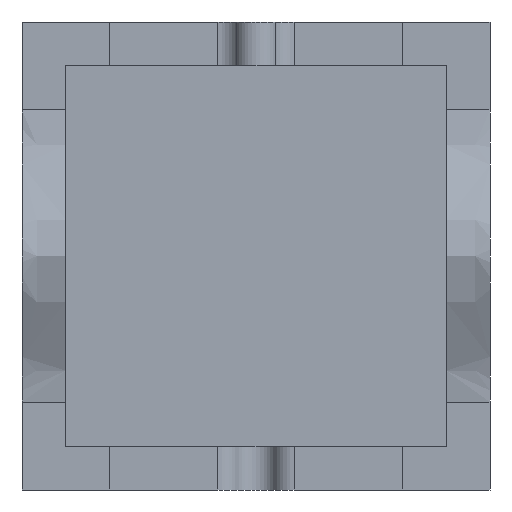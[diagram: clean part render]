
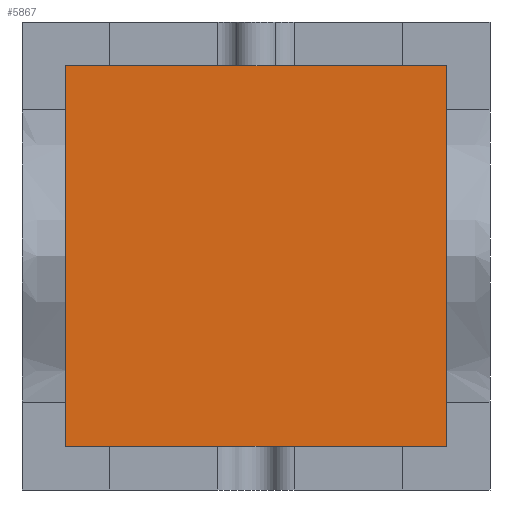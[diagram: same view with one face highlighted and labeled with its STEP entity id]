
A CAD part, front view. The second image highlights one B-rep face of the part: STEP entity #5867.
In plain terms, the highlighted planar face has unit normal (0, -1, 0).
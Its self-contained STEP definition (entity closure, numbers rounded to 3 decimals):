
#5741=CARTESIAN_POINT('Vertex',(-20.,-30.,-20.)) ;
#5746=CARTESIAN_POINT('Line Origine',(-20.,-30.,66.5)) ;
#5750=CARTESIAN_POINT('Vertex',(-20.,-30.,153.)) ;
#5777=CARTESIAN_POINT('Line Origine',(66.5,-30.,153.)) ;
#5781=CARTESIAN_POINT('Vertex',(153.,-30.,153.)) ;
#5808=CARTESIAN_POINT('Line Origine',(153.,-30.,66.5)) ;
#5812=CARTESIAN_POINT('Vertex',(153.,-30.,-20.)) ;
#5839=CARTESIAN_POINT('Line Origine',(66.5,-30.,-20.)) ;
#5856=CARTESIAN_POINT('Axis2P3D Location',(0.,-30.,0.)) ;
#5747=DIRECTION('Vector Direction',(0.,0.,-1.)) ;
#5778=DIRECTION('Vector Direction',(1.,0.,0.)) ;
#5809=DIRECTION('Vector Direction',(0.,0.,1.)) ;
#5840=DIRECTION('Vector Direction',(-1.,0.,0.)) ;
#5857=DIRECTION('Axis2P3D Direction',(0.,1.,0.)) ;
#5858=DIRECTION('Axis2P3D XDirection',(-1.,0.,0.)) ;
#5859=AXIS2_PLACEMENT_3D('Plane Axis2P3D',#5856,#5857,#5858) ;
#5862=ORIENTED_EDGE('',*,*,#5843,.F.) ;
#5863=ORIENTED_EDGE('',*,*,#5814,.F.) ;
#5864=ORIENTED_EDGE('',*,*,#5783,.F.) ;
#5865=ORIENTED_EDGE('',*,*,#5752,.F.) ;
#5748=VECTOR('Line Direction',#5747,1.) ;
#5779=VECTOR('Line Direction',#5778,1.) ;
#5810=VECTOR('Line Direction',#5809,1.) ;
#5841=VECTOR('Line Direction',#5840,1.) ;
#5867=ADVANCED_FACE('Cavity-molde',(#5866),#5860,.F.) ;
#5752=EDGE_CURVE('',#5742,#5751,#5749,.F.) ;
#5783=EDGE_CURVE('',#5751,#5782,#5780,.T.) ;
#5814=EDGE_CURVE('',#5782,#5813,#5811,.F.) ;
#5843=EDGE_CURVE('',#5813,#5742,#5842,.T.) ;
#5861=EDGE_LOOP('',(#5862,#5863,#5864,#5865)) ;
#5866=FACE_OUTER_BOUND('',#5861,.T.) ;
#5749=LINE('Line',#5746,#5748) ;
#5780=LINE('Line',#5777,#5779) ;
#5811=LINE('Line',#5808,#5810) ;
#5842=LINE('Line',#5839,#5841) ;
#5860=PLANE('',#5859) ;
#5742=VERTEX_POINT('',#5741) ;
#5751=VERTEX_POINT('',#5750) ;
#5782=VERTEX_POINT('',#5781) ;
#5813=VERTEX_POINT('',#5812) ;
